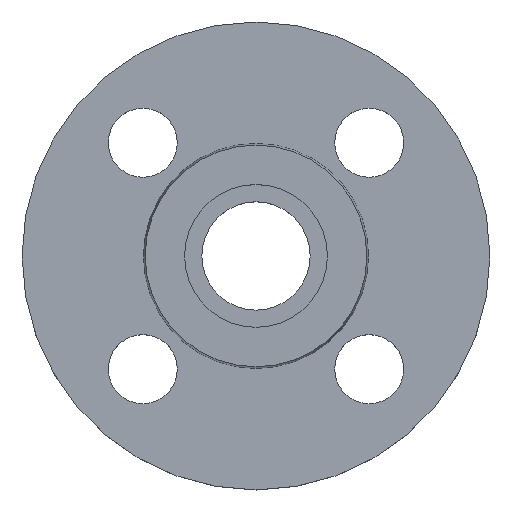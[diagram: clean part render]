
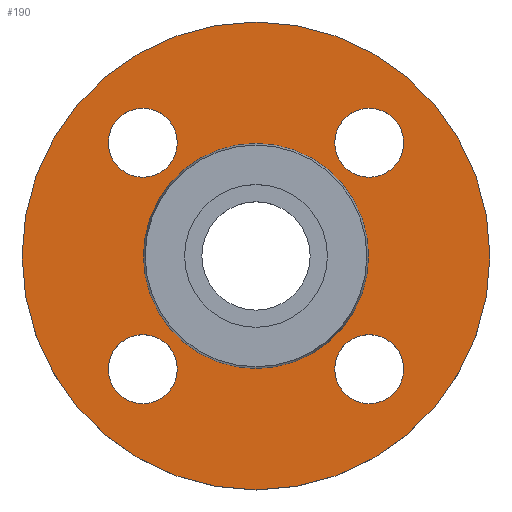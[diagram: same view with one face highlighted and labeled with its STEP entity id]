
A CAD part, top view. The second image highlights one B-rep face of the part: STEP entity #190.
In plain terms, the highlighted planar face has unit normal (0, 0, 1).
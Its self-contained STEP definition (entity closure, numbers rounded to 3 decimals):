
#9 = EDGE_CURVE ( 'NONE', #424, #333, #156, .T. ) ;
#10 = AXIS2_PLACEMENT_3D ( 'NONE', #85, #83, #90 ) ;
#21 = AXIS2_PLACEMENT_3D ( 'NONE', #497, #498, #499 ) ;
#28 = CIRCLE ( 'NONE', #10, 7. ) ;
#38 = AXIS2_PLACEMENT_3D ( 'NONE', #485, #486, #487 ) ;
#45 = EDGE_CURVE ( 'NONE', #250, #421, #267, .T. ) ;
#46 = DIRECTION ( 'NONE',  ( 0., 0., -1. ) ) ;
#56 = EDGE_CURVE ( 'NONE', #436, #266, #167, .T. ) ;
#65 = EDGE_CURVE ( 'NONE', #270, #420, #178, .T. ) ;
#83 = DIRECTION ( 'NONE',  ( 0., 0., -1. ) ) ;
#85 = CARTESIAN_POINT ( 'NONE',  ( 22.981, 22.981, -2. ) ) ;
#86 = CIRCLE ( 'NONE', #95, 7. ) ;
#89 = CARTESIAN_POINT ( 'NONE',  ( 29.981, 22.981, -2. ) ) ;
#90 = DIRECTION ( 'NONE',  ( 1., 0., 0. ) ) ;
#91 = CARTESIAN_POINT ( 'NONE',  ( -47.5, 0., -2. ) ) ;
#93 = CARTESIAN_POINT ( 'NONE',  ( -29.981, -22.981, -2. ) ) ;
#95 = AXIS2_PLACEMENT_3D ( 'NONE', #192, #193, #195 ) ;
#103 = CARTESIAN_POINT ( 'NONE',  ( 0., 0., -2. ) ) ;
#111 = DIRECTION ( 'NONE',  ( 1., 0., 0. ) ) ;
#112 = DIRECTION ( 'NONE',  ( 0., 0., -1. ) ) ;
#113 = CARTESIAN_POINT ( 'NONE',  ( -22.981, -22.981, -2. ) ) ;
#121 = CIRCLE ( 'NONE', #473, 7. ) ;
#122 = AXIS2_PLACEMENT_3D ( 'NONE', #582, #583, #584 ) ;
#128 = AXIS2_PLACEMENT_3D ( 'NONE', #540, #555, #557 ) ;
#129 = CIRCLE ( 'NONE', #128, 47.5 ) ;
#131 = DIRECTION ( 'NONE',  ( -1., 0., 0. ) ) ;
#133 = DIRECTION ( 'NONE',  ( 1., 0., 0. ) ) ;
#136 = AXIS2_PLACEMENT_3D ( 'NONE', #103, #112, #131 ) ;
#138 = AXIS2_PLACEMENT_3D ( 'NONE', #573, #574, #575 ) ;
#142 = DIRECTION ( 'NONE',  ( 0., 0., -1. ) ) ;
#150 = AXIS2_PLACEMENT_3D ( 'NONE', #268, #142, #133 ) ;
#156 = CIRCLE ( 'NONE', #210, 22.853 ) ;
#159 = CIRCLE ( 'NONE', #136, 22.853 ) ;
#167 = CIRCLE ( 'NONE', #21, 7. ) ;
#174 = EDGE_CURVE ( 'NONE', #327, #438, #129, .T. ) ;
#177 = AXIS2_PLACEMENT_3D ( 'NONE', #500, #501, #502 ) ;
#178 = CIRCLE ( 'NONE', #177, 7. ) ;
#181 = CIRCLE ( 'NONE', #122, 47.5 ) ;
#190 = ADVANCED_FACE ( 'NONE', ( #566, #567, #568, #569, #570, #571 ), #572, .T. ) ;
#192 = CARTESIAN_POINT ( 'NONE',  ( -22.981, -22.981, -2. ) ) ;
#193 = DIRECTION ( 'NONE',  ( 0., 0., -1. ) ) ;
#195 = DIRECTION ( 'NONE',  ( 1., 0., 0. ) ) ;
#210 = AXIS2_PLACEMENT_3D ( 'NONE', #451, #452, #453 ) ;
#213 = CARTESIAN_POINT ( 'NONE',  ( -15.981, 22.981, -2. ) ) ;
#214 = CARTESIAN_POINT ( 'NONE',  ( 29.981, -22.981, -2. ) ) ;
#218 = EDGE_CURVE ( 'NONE', #438, #327, #181, .T. ) ;
#224 = CARTESIAN_POINT ( 'NONE',  ( -22.853, 0., -2. ) ) ;
#228 = CIRCLE ( 'NONE', #150, 7. ) ;
#239 = DIRECTION ( 'NONE',  ( 0., 0., -1. ) ) ;
#240 = EDGE_LOOP ( 'NONE', ( #339, #342 ) ) ;
#242 = DIRECTION ( 'NONE',  ( 1., 0., 0. ) ) ;
#245 = VERTEX_POINT ( 'NONE', #609 ) ;
#250 = VERTEX_POINT ( 'NONE', #612 ) ;
#254 = CARTESIAN_POINT ( 'NONE',  ( -22.981, 22.981, -2. ) ) ;
#258 = AXIS2_PLACEMENT_3D ( 'NONE', #254, #239, #242 ) ;
#266 = VERTEX_POINT ( 'NONE', #619 ) ;
#267 = CIRCLE ( 'NONE', #38, 7. ) ;
#268 = CARTESIAN_POINT ( 'NONE',  ( 22.981, -22.981, -2. ) ) ;
#270 = VERTEX_POINT ( 'NONE', #620 ) ;
#278 = CIRCLE ( 'NONE', #258, 7. ) ;
#297 = EDGE_LOOP ( 'NONE', ( #400, #349 ) ) ;
#299 = EDGE_LOOP ( 'NONE', ( #344, #345 ) ) ;
#327 = VERTEX_POINT ( 'NONE', #659 ) ;
#333 = VERTEX_POINT ( 'NONE', #663 ) ;
#337 = ORIENTED_EDGE ( 'NONE', *, *, #457, .T. ) ;
#338 = ORIENTED_EDGE ( 'NONE', *, *, #45, .T. ) ;
#339 = ORIENTED_EDGE ( 'NONE', *, *, #611, .T. ) ;
#342 = ORIENTED_EDGE ( 'NONE', *, *, #409, .T. ) ;
#344 = ORIENTED_EDGE ( 'NONE', *, *, #56, .T. ) ;
#345 = ORIENTED_EDGE ( 'NONE', *, *, #433, .T. ) ;
#346 = ORIENTED_EDGE ( 'NONE', *, *, #9, .T. ) ;
#347 = ORIENTED_EDGE ( 'NONE', *, *, #536, .T. ) ;
#348 = ORIENTED_EDGE ( 'NONE', *, *, #174, .F. ) ;
#349 = ORIENTED_EDGE ( 'NONE', *, *, #65, .T. ) ;
#350 = ORIENTED_EDGE ( 'NONE', *, *, #218, .F. ) ;
#400 = ORIENTED_EDGE ( 'NONE', *, *, #644, .T. ) ;
#409 = EDGE_CURVE ( 'NONE', #437, #245, #86, .T. ) ;
#413 = EDGE_LOOP ( 'NONE', ( #346, #347 ) ) ;
#414 = EDGE_LOOP ( 'NONE', ( #348, #350 ) ) ;
#420 = VERTEX_POINT ( 'NONE', #213 ) ;
#421 = VERTEX_POINT ( 'NONE', #214 ) ;
#424 = VERTEX_POINT ( 'NONE', #224 ) ;
#432 = EDGE_LOOP ( 'NONE', ( #337, #338 ) ) ;
#433 = EDGE_CURVE ( 'NONE', #266, #436, #28, .T. ) ;
#436 = VERTEX_POINT ( 'NONE', #89 ) ;
#437 = VERTEX_POINT ( 'NONE', #93 ) ;
#438 = VERTEX_POINT ( 'NONE', #91 ) ;
#451 = CARTESIAN_POINT ( 'NONE',  ( 0., 0., -2. ) ) ;
#452 = DIRECTION ( 'NONE',  ( 0., 0., -1. ) ) ;
#453 = DIRECTION ( 'NONE',  ( -1., 0., 0. ) ) ;
#457 = EDGE_CURVE ( 'NONE', #421, #250, #228, .T. ) ;
#473 = AXIS2_PLACEMENT_3D ( 'NONE', #113, #46, #111 ) ;
#485 = CARTESIAN_POINT ( 'NONE',  ( 22.981, -22.981, -2. ) ) ;
#486 = DIRECTION ( 'NONE',  ( 0., 0., -1. ) ) ;
#487 = DIRECTION ( 'NONE',  ( 1., 0., 0. ) ) ;
#497 = CARTESIAN_POINT ( 'NONE',  ( 22.981, 22.981, -2. ) ) ;
#498 = DIRECTION ( 'NONE',  ( 0., 0., -1. ) ) ;
#499 = DIRECTION ( 'NONE',  ( 1., 0., 0. ) ) ;
#500 = CARTESIAN_POINT ( 'NONE',  ( -22.981, 22.981, -2. ) ) ;
#501 = DIRECTION ( 'NONE',  ( 0., 0., -1. ) ) ;
#502 = DIRECTION ( 'NONE',  ( 1., 0., 0. ) ) ;
#536 = EDGE_CURVE ( 'NONE', #333, #424, #159, .T. ) ;
#540 = CARTESIAN_POINT ( 'NONE',  ( 0., 0., -2. ) ) ;
#555 = DIRECTION ( 'NONE',  ( 0., 0., -1. ) ) ;
#557 = DIRECTION ( 'NONE',  ( -1., 0., 0. ) ) ;
#566 = FACE_BOUND ( 'NONE', #432, .T. ) ;
#567 = FACE_BOUND ( 'NONE', #240, .T. ) ;
#568 = FACE_BOUND ( 'NONE', #297, .T. ) ;
#569 = FACE_BOUND ( 'NONE', #299, .T. ) ;
#570 = FACE_BOUND ( 'NONE', #413, .T. ) ;
#571 = FACE_OUTER_BOUND ( 'NONE', #414, .T. ) ;
#572 = PLANE ( 'NONE',  #138 ) ;
#573 = CARTESIAN_POINT ( 'NONE',  ( 22.853, 0., -2. ) ) ;
#574 = DIRECTION ( 'NONE',  ( 0., 0., 1. ) ) ;
#575 = DIRECTION ( 'NONE',  ( 1., 0., 0. ) ) ;
#582 = CARTESIAN_POINT ( 'NONE',  ( 0., 0., -2. ) ) ;
#583 = DIRECTION ( 'NONE',  ( 0., 0., -1. ) ) ;
#584 = DIRECTION ( 'NONE',  ( -1., 0., 0. ) ) ;
#609 = CARTESIAN_POINT ( 'NONE',  ( -15.981, -22.981, -2. ) ) ;
#611 = EDGE_CURVE ( 'NONE', #245, #437, #121, .T. ) ;
#612 = CARTESIAN_POINT ( 'NONE',  ( 15.981, -22.981, -2. ) ) ;
#619 = CARTESIAN_POINT ( 'NONE',  ( 15.981, 22.981, -2. ) ) ;
#620 = CARTESIAN_POINT ( 'NONE',  ( -29.981, 22.981, -2. ) ) ;
#644 = EDGE_CURVE ( 'NONE', #420, #270, #278, .T. ) ;
#659 = CARTESIAN_POINT ( 'NONE',  ( 47.5, 0., -2. ) ) ;
#663 = CARTESIAN_POINT ( 'NONE',  ( 22.853, 0., -2. ) ) ;
